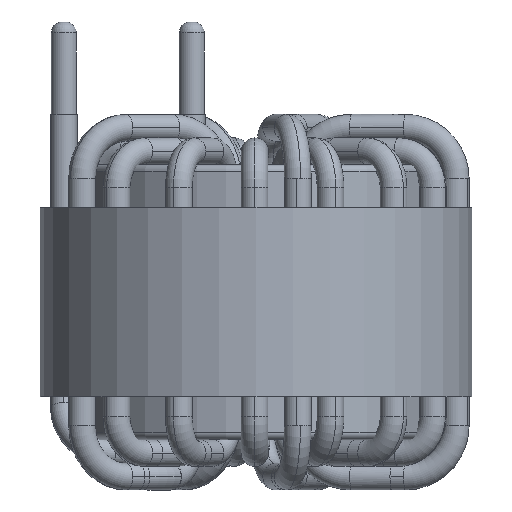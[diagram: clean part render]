
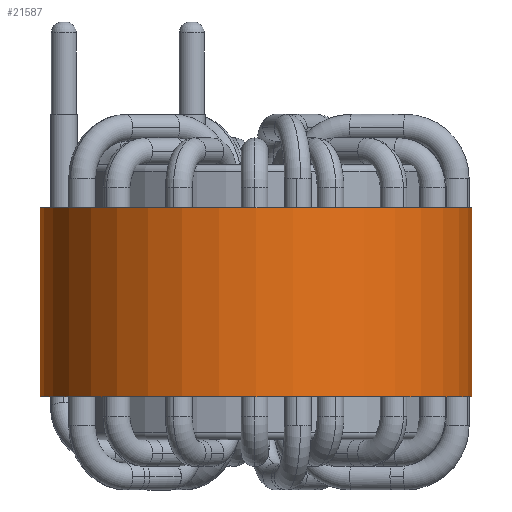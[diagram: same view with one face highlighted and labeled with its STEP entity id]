
A CAD part, front view. The second image highlights one B-rep face of the part: STEP entity #21587.
In plain terms, the highlighted cylindrical face has radius 29.67 mm (diameter 59.34 mm), a partial arc.
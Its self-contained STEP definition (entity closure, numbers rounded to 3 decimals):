
#95 = DIRECTION ( 'NONE',  ( 0., 0., -1. ) ) ;
#674 = VECTOR ( 'NONE', #21212, 1000. ) ;
#793 = ORIENTED_EDGE ( 'NONE', *, *, #27775, .F. ) ;
#2226 = CARTESIAN_POINT ( 'NONE',  ( -29.67, 0., -13. ) ) ;
#3346 = VERTEX_POINT ( 'NONE', #5720 ) ;
#4170 = EDGE_CURVE ( 'NONE', #3346, #31001, #5092, .T. ) ;
#4253 = EDGE_LOOP ( 'NONE', ( #793, #10440, #12936, #9552 ) ) ;
#4485 = CARTESIAN_POINT ( 'NONE',  ( -29.67, 0., 13. ) ) ;
#5092 = LINE ( 'NONE', #4485, #27786 ) ;
#5720 = CARTESIAN_POINT ( 'NONE',  ( -29.67, 0., 13. ) ) ;
#5774 = CARTESIAN_POINT ( 'NONE',  ( 29.67, 0., -13. ) ) ;
#6664 = CARTESIAN_POINT ( 'NONE',  ( 0., 0., -13. ) ) ;
#6875 = CIRCLE ( 'NONE', #19158, 29.67 ) ;
#7694 = CARTESIAN_POINT ( 'NONE',  ( 29.67, 0., 13. ) ) ;
#8576 = VERTEX_POINT ( 'NONE', #5774 ) ;
#9420 = VERTEX_POINT ( 'NONE', #29698 ) ;
#9552 = ORIENTED_EDGE ( 'NONE', *, *, #35124, .T. ) ;
#10440 = ORIENTED_EDGE ( 'NONE', *, *, #22989, .F. ) ;
#11491 = CARTESIAN_POINT ( 'NONE',  ( 0., 0., 13. ) ) ;
#12254 = DIRECTION ( 'NONE',  ( 1., 0., 0. ) ) ;
#12318 = DIRECTION ( 'NONE',  ( 0., 0., 1. ) ) ;
#12859 = DIRECTION ( 'NONE',  ( 0., 0., -1. ) ) ;
#12936 = ORIENTED_EDGE ( 'NONE', *, *, #4170, .T. ) ;
#13953 = DIRECTION ( 'NONE',  ( -1., 0., 0. ) ) ;
#15239 = DIRECTION ( 'NONE',  ( 1., 0., 0. ) ) ;
#16834 = AXIS2_PLACEMENT_3D ( 'NONE', #6664, #28648, #12254 ) ;
#19158 = AXIS2_PLACEMENT_3D ( 'NONE', #23430, #12318, #15239 ) ;
#21212 = DIRECTION ( 'NONE',  ( 0., 0., -1. ) ) ;
#21587 = ADVANCED_FACE ( 'NONE', ( #21815 ), #24909, .T. ) ;
#21815 = FACE_OUTER_BOUND ( 'NONE', #4253, .T. ) ;
#22989 = EDGE_CURVE ( 'NONE', #3346, #9420, #6875, .T. ) ;
#23430 = CARTESIAN_POINT ( 'NONE',  ( 0., 0., 13. ) ) ;
#24035 = AXIS2_PLACEMENT_3D ( 'NONE', #11491, #95, #13953 ) ;
#24909 = CYLINDRICAL_SURFACE ( 'NONE', #24035, 29.67 ) ;
#26416 = LINE ( 'NONE', #7694, #674 ) ;
#27775 = EDGE_CURVE ( 'NONE', #9420, #8576, #26416, .T. ) ;
#27786 = VECTOR ( 'NONE', #12859, 1000. ) ;
#28648 = DIRECTION ( 'NONE',  ( 0., 0., 1. ) ) ;
#29698 = CARTESIAN_POINT ( 'NONE',  ( 29.67, 0., 13. ) ) ;
#31001 = VERTEX_POINT ( 'NONE', #2226 ) ;
#34661 = CIRCLE ( 'NONE', #16834, 29.67 ) ;
#35124 = EDGE_CURVE ( 'NONE', #31001, #8576, #34661, .T. ) ;
